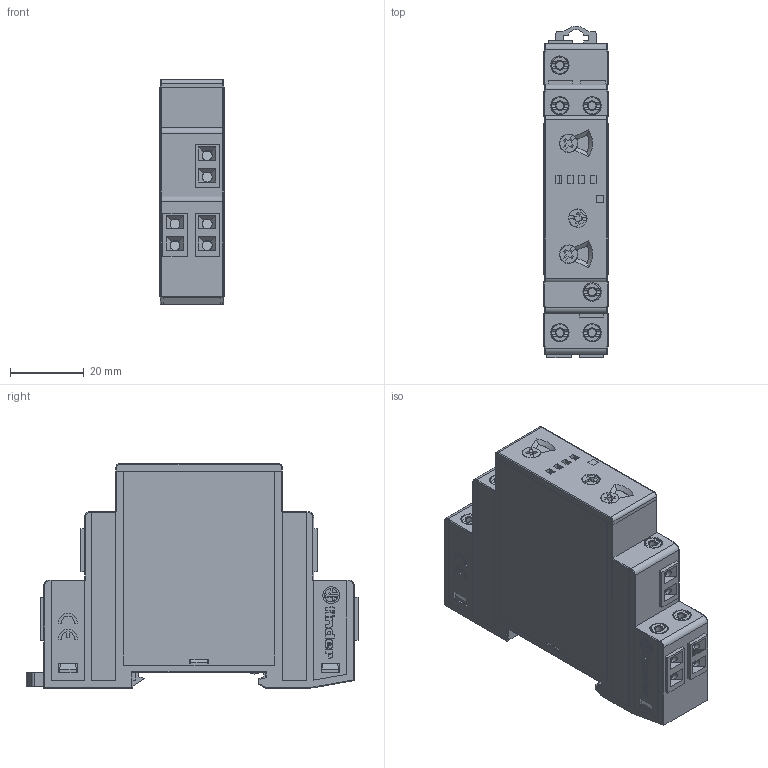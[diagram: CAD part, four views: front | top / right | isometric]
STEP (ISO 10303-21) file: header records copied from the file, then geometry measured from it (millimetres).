
FILE_DESCRIPTION(/* description */ ('Unknown'),/* implementation_level */ '2;1');
FILE_NAME(/* name */ '80_51 push-in',/* time_stamp */ '2018-02-05T17:27:51+01:00',/* author */ ('Unknown'),/* organization */ ('Unknown'),/* preprocessor_version */ 'ST-DEVELOPER v16.7',/* originating_system */ 'DEX',/* authorisation */ $);
FILE_SCHEMA (('AUTOMOTIVE_DESIGN {1 0 10303 214 3 1 1}'));
Length unit declared in the file: millimetre
Products named in the file (1): 80_51 push-in
Bounding box: 17.5 x 89.85 x 60.8 mm (x, y, z)
Surface area: 19195.7 mm2 (no closed solid volume)
Topology: 0 solids, 74 shells, 983 faces, 3453 edges, 2559 vertices
Faces by surface type: plane 641, cylinder 179, bspline 123, torus 28, cone 12
Full cylindrical faces by diameter (mm): 2.2 x6, 2.7 x12, 3 x2, 5 x7
Entity records: 38830 total; most frequent: CARTESIAN_POINT 9697, ORIENTED_EDGE 5545, DIRECTION 5511, EDGE_CURVE 3385, VERTEX_POINT 2530, LINE 2417, VECTOR 2417, AXIS2_PLACEMENT_3D 1547
